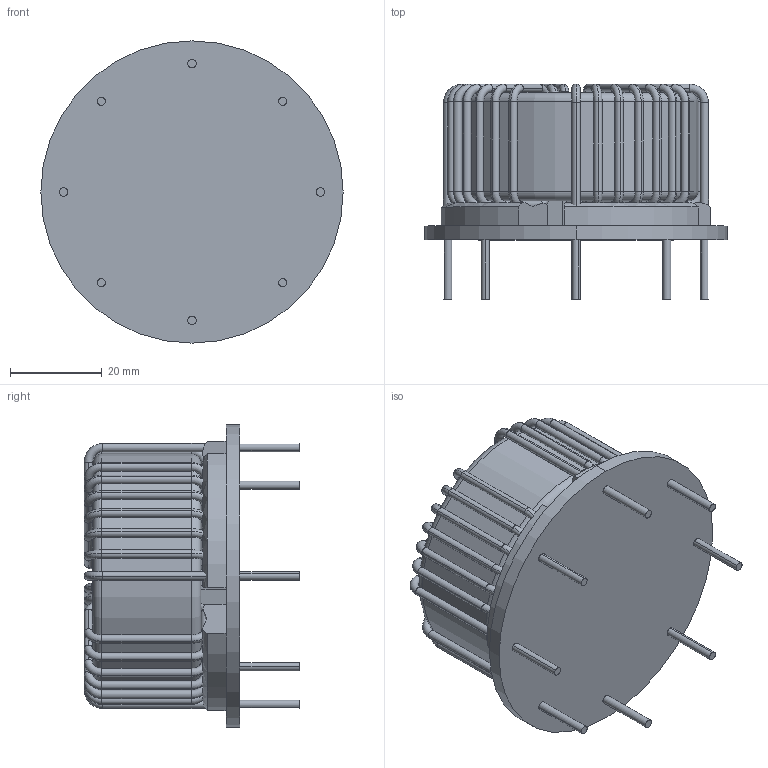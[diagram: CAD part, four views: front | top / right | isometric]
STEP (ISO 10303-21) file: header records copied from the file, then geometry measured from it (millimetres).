
FILE_DESCRIPTION (( 'STEP AP203' ), '1' );
FILE_NAME ('FPA-552U-B50A.STEP', '2020-07-21T13:21:15', ( 'Windows User' ), ( '' ), 'SwSTEP 2.0', 'SolidWorks 2015', '' );
FILE_SCHEMA (( 'CONFIG_CONTROL_DESIGN' ));
Length unit declared in the file: inch
Products named in the file (6): FPA-552U-B50A - EPOXY; FPA-552U-B50A - SPACER; FPA-552U-B50A; FPA-552U-B50A - COIL; FPA-552U-B50A - FRAME; FPA-552U-B50A - CORE
Assembly tree (5 placements, depth 2):
  FPA-552U-B50A
    FPA-552U-B50A - CORE
    FPA-552U-B50A - COIL
    FPA-552U-B50A - FRAME
    FPA-552U-B50A - SPACER
    FPA-552U-B50A - EPOXY
Bounding box: 65.96 x 47.03 x 65.96 mm (x, y, z)
Volume: 62412.3 mm3; surface area: 37581.6 mm2
Topology: 23 solids, 23 shells, 636 faces, 1638 edges, 1048 vertices
Faces by surface type: cylinder 310, torus 236, plane 62, bspline 28
Entity records: 23110 total; most frequent: CARTESIAN_POINT 6154, DIRECTION 3970, ORIENTED_EDGE 3276, AXIS2_PLACEMENT_3D 1808, EDGE_CURVE 1638, CIRCLE 1192, VERTEX_POINT 1048, EDGE_LOOP 654
